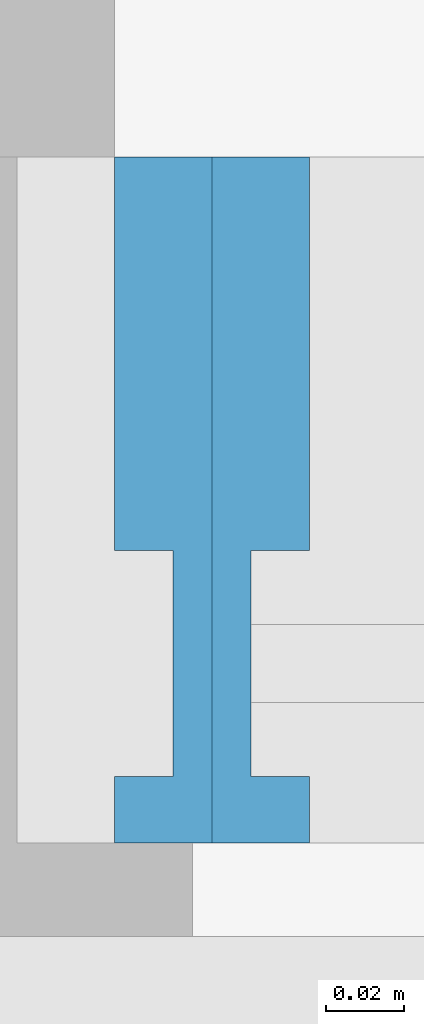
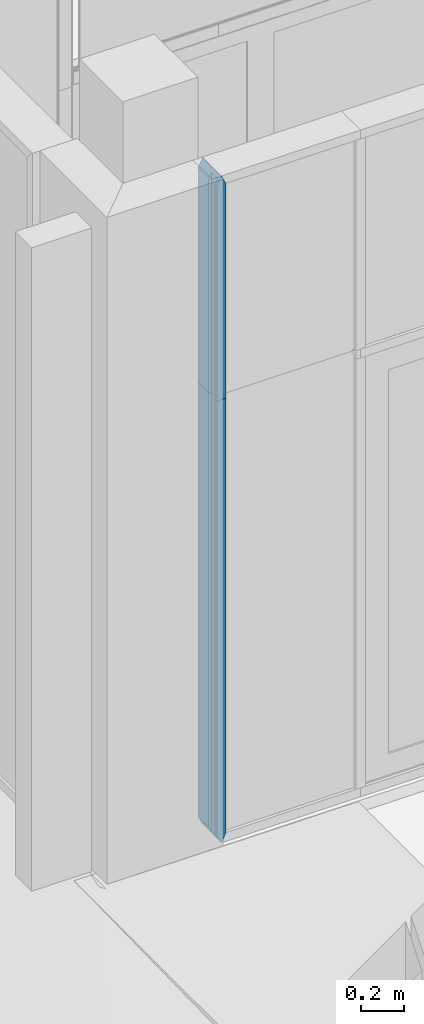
# One storey, part 13 of 69: 2 members, 1 element without a shape of its own.
"""IFC2X3 building model written with IfcOpenShell, lengths in millimetres."""

import ifcopenshell
import ifcopenshell.guid

model = None  # the IFC model being written
_history = None  # IfcOwnerHistory: only IFC2X3 demands one
_inside = {}  # id of a spatial element -> (the spatial element, [elements in it])
_under = {}  # id of a project, library or spatial element -> (it, [spatial elements below it])
_declared = {}  # id of a project -> (the project, [libraries it declares])
_typed = {}  # id of a type object -> (the type object, [elements of that type])
_made_of = {}  # id of a material, layer set ... -> (it, [elements and type objects made of it])


def new_model(schema):
    """Start an empty IFC model of exactly this schema.

    Asked for "IFC4X3", IfcOpenShell would pick the latest addendum, in which some entities
    have other attributes; the version numbers below select the first issue.
    IFC2X3 requires an IfcOwnerHistory on every rooted entity: one is made here for all.
    """
    global model, _history
    if schema == "IFC4X3":
        model = ifcopenshell.file(schema_version=(4, 3, 0, 0))
    else:
        model = ifcopenshell.file(schema=schema)
    _inside.clear()
    _under.clear()
    _declared.clear()
    _typed.clear()
    _made_of.clear()
    _history = None
    if model.schema == "IFC2X3":
        org = make("IfcOrganization", Name="unknown")
        user = make(
            "IfcPersonAndOrganization",
            ThePerson=make("IfcPerson", FamilyName="unknown"),
            TheOrganization=org,
        )
        app = make(
            "IfcApplication",
            ApplicationDeveloper=org,
            Version="unknown",
            ApplicationFullName="unknown",
            ApplicationIdentifier="unknown",
        )
        _history = make(
            "IfcOwnerHistory",
            OwningUser=user,
            OwningApplication=app,
            ChangeAction="ADDED",
            CreationDate=0,
        )
    return model


def make(cls, **values):
    """One entity of the class cls with the attributes given. An attribute that is None is left unset."""
    return model.create_entity(
        cls, **{name: value for name, value in values.items() if value is not None}
    )


def entity(cls, *values):
    """Any entity or typed value of the class cls, its attributes in the order of the schema. None: left unset."""
    e = model.create_entity(cls)
    for i, value in enumerate(values):
        if value is not None:
            e[i] = value
    return e


def rooted(cls, **values):
    """An entity with a GlobalId (a new one), such as an element, a storey or a relation."""
    return make(cls, GlobalId=ifcopenshell.guid.new(), OwnerHistory=_history, **values)


def si_unit(unit_type, name, prefix=None):
    """IfcSIUnit, for example si_unit("LENGTHUNIT", "METRE", prefix="MILLI")."""
    return make("IfcSIUnit", UnitType=unit_type, Prefix=prefix, Name=name)


def converted_unit(unit_type, name, factor, base, dimensions=None, offset=None):
    """IfcConversionBasedUnit, such as the inch: factor (a typed value) times the base unit."""
    return make(
        "IfcConversionBasedUnit"
        if offset is None
        else "IfcConversionBasedUnitWithOffset",
        ConversionOffset=offset,
        Dimensions=None
        if dimensions is None
        else entity("IfcDimensionalExponents", *dimensions),
        UnitType=unit_type,
        Name=name,
        ConversionFactor=make(
            "IfcMeasureWithUnit", ValueComponent=factor, UnitComponent=base
        ),
    )


def derived_unit(unit_type, elements):
    """IfcDerivedUnit: a product of units, each with its exponent."""
    return make(
        "IfcDerivedUnit",
        Elements=[
            make("IfcDerivedUnitElement", Unit=unit, Exponent=power)
            for unit, power in elements
        ],
        UnitType=unit_type,
    )


def money_unit(currency):
    """IfcMonetaryUnit."""
    return make("IfcMonetaryUnit", Currency=currency)


def assignment(units):
    """IfcUnitAssignment: the units of a project."""
    return None if units is None else make("IfcUnitAssignment", Units=units)


def point(xyz):
    """IfcCartesianPoint."""
    return None if xyz is None else make("IfcCartesianPoint", Coordinates=xyz)


def direction(xyz):
    """IfcDirection."""
    return None if xyz is None else make("IfcDirection", DirectionRatios=xyz)


def frame(location, z_axis=None, x_axis=None):
    """IfcAxis2Placement3D, a coordinate frame: its origin and axes. An axis left out is left unset."""
    return make(
        "IfcAxis2Placement3D",
        Location=point(location),
        Axis=direction(z_axis),
        RefDirection=direction(x_axis),
    )


def origin_with_axes():
    """The frame at (0, 0, 0) with the z axis (0, 0, 1) and the x axis (1, 0, 0) written out."""
    return frame((0.0, 0.0, 0.0), z_axis=(0.0, 0.0, 1.0), x_axis=(1.0, 0.0, 0.0))


def place(relative_to, where):
    """IfcLocalPlacement: puts the frame where relative to a parent placement (None: the world)."""
    return make(
        "IfcLocalPlacement", PlacementRelTo=relative_to, RelativePlacement=where
    )


def context(
    kind, dimensions, precision=None, world=None, true_north=None, identifier=None
):
    """IfcGeometricRepresentationContext, for example the 3D "Model" context."""
    return make(
        "IfcGeometricRepresentationContext",
        ContextIdentifier=identifier,
        ContextType=kind,
        CoordinateSpaceDimension=dimensions,
        Precision=precision,
        WorldCoordinateSystem=world,
        TrueNorth=true_north,
    )


def subcontext(parent, identifier, kind, view, scale=None):
    """IfcGeometricRepresentationSubContext, for example "Body" below "Model"."""
    return make(
        "IfcGeometricRepresentationSubContext",
        ContextIdentifier=identifier,
        ContextType=kind,
        ParentContext=parent,
        TargetScale=scale,
        TargetView=view,
    )


def project(units=None, contexts=None):
    """IfcProject with its units and contexts."""
    return rooted(
        "IfcProject",
        Name="project",
        RepresentationContexts=contexts,
        UnitsInContext=assignment(units),
    )


def spatial(cls, under=None, at=None, **own):
    """A site, building, storey or space (cls), placed at a placement, below another one or the project."""
    s = rooted(cls, ObjectPlacement=at, **own)
    if under is not None:
        _under.setdefault(under.id(), (under, []))[1].append(s)
    return s


def faces_of(points, faces, orient=None, outer=None):
    """IfcFace entities. A face is a list of loops; a loop is a list of indices into points, from 0.

    orient and outer hold one flag for each loop. By default every Orientation is true, the
    first loop of a face is its IfcFaceOuterBound and the others are IfcFaceBound.
    """
    made = []
    for i, loops in enumerate(faces):
        bounds = []
        for j, loop in enumerate(loops):
            is_outer = j == 0 if outer is None else outer[i][j]
            bounds.append(
                make(
                    "IfcFaceOuterBound" if is_outer else "IfcFaceBound",
                    Bound=make("IfcPolyLoop", Polygon=[points[k] for k in loop]),
                    Orientation=True if orient is None else orient[i][j],
                )
            )
        made.append(make("IfcFace", Bounds=bounds))
    return made


def faceted_brep(points, faces, orient=None, outer=None, voids=None):
    """IfcFacetedBrep: a solid bounded by flat faces; with voids (closed shells), ...WithVoids."""
    shared = [point(p) for p in points]
    hull = make("IfcClosedShell", CfsFaces=faces_of(shared, faces, orient, outer))
    if voids is None:
        return make("IfcFacetedBrep", Outer=hull)
    return make(
        "IfcFacetedBrepWithVoids",
        Outer=hull,
        Voids=[
            make(cls, CfsFaces=faces_of(shared, fs, o, b)) for cls, fs, o, b in voids
        ],
    )


def shape(context_of_items, identifier, shape_type, items):
    """IfcShapeRepresentation: the items that make up one representation, for example the "Body"."""
    return make(
        "IfcShapeRepresentation",
        ContextOfItems=context_of_items,
        RepresentationIdentifier=identifier,
        RepresentationType=shape_type,
        Items=items,
    )


def material(Name=None, Category=None):
    """IfcMaterial."""
    return make("IfcMaterial", Name=Name, Category=Category)


def made_of(thing, what):
    """Note that an element or type object is made of a material, layer set ...; save() writes the relation."""
    if what is not None:
        _made_of.setdefault(what.id(), (what, []))[1].append(thing)
    return thing


def type_object(cls, material=None, **own):
    """A type object (cls), such as IfcWallType, which elements share."""
    return made_of(rooted(cls, **own), material)


def element(
    cls,
    number,
    at=None,
    inside=None,
    cuts=None,
    type_object=None,
    material=None,
    context=None,
    identifier="Body",
    shape_type=None,
    held_by="IfcProductDefinitionShape",
    body=None,
    shapes=None,
    **own,
):
    """One element of the class cls, such as IfcWall. Its Tag is "e" and its number.

    at: its placement. inside: the storey or other place that contains it. cuts: it is an
    opening in that element (IfcRelVoidsElement). A single representation is given by context,
    identifier, shape_type and body (its items); several are given by shapes. held_by: the class
    of the entity that holds the representations. save() writes the other relations.
    """
    e = rooted(cls, Tag="e%d" % number, ObjectPlacement=at, **own)
    if body is not None:
        shapes = [shape(context, identifier, shape_type, body)]
    if shapes is not None:
        e.Representation = make(held_by, Representations=shapes)
    if inside is not None:
        _inside.setdefault(inside.id(), (inside, []))[1].append(e)
    if cuts is not None:
        rooted(
            "IfcRelVoidsElement", RelatingBuildingElement=cuts, RelatedOpeningElement=e
        )
    if type_object is not None:
        _typed.setdefault(type_object.id(), (type_object, []))[1].append(e)
    return made_of(e, material)


def aggregate(whole, parts):
    """IfcRelAggregates: a whole, such as a stair, and the parts it consists of."""
    return rooted("IfcRelAggregates", RelatingObject=whole, RelatedObjects=parts)


def save(model, path):
    """Write the relations noted so far, then the file.

    IfcRelAggregates (storeys below a building ...), IfcRelContainedInSpatialStructure (elements
    in a storey), IfcRelDefinesByType, IfcRelAssociatesMaterial and IfcRelDeclares: one each for
    every whole, place, type object, material and project.
    """
    for whole, parts in _under.values():
        aggregate(whole, parts)
    for where, things in _inside.values():
        rooted(
            "IfcRelContainedInSpatialStructure",
            RelatedElements=things,
            RelatingStructure=where,
        )
    for kind, things in _typed.values():
        rooted("IfcRelDefinesByType", RelatedObjects=things, RelatingType=kind)
    for what, things in _made_of.values():
        rooted("IfcRelAssociatesMaterial", RelatedObjects=things, RelatingMaterial=what)
    for by, libraries in _declared.values():
        rooted("IfcRelDeclares", RelatingContext=by, RelatedDefinitions=libraries)
    model.write(path)


model = new_model("IFC2X3")

# Units and contexts
model_context = context("Model", 3, precision=0.01, world=origin_with_axes(), true_north=direction((0.0, 1.0)))
body_context = subcontext(model_context, "Body", "Model", "MODEL_VIEW")
ifc_project = project(units=[si_unit("LENGTHUNIT", "METRE", prefix="MILLI"), si_unit("AREAUNIT", "SQUARE_METRE"), si_unit("VOLUMEUNIT", "CUBIC_METRE"), converted_unit("PLANEANGLEUNIT", "DEGREE", entity("IfcPlaneAngleMeasure", 0.0174532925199), si_unit("PLANEANGLEUNIT", "RADIAN"), dimensions=[0, 0, 0, 0, 0, 0, 0]), si_unit("SOLIDANGLEUNIT", "STERADIAN"), money_unit("EUR"), converted_unit("TIMEUNIT", "Year", entity("IfcTimeMeasure", 31556926.0), si_unit("TIMEUNIT", "SECOND"), dimensions=[0, 0, 1, 0, 0, 0, 0]), si_unit("MASSUNIT", "GRAM", prefix="KILO"), si_unit("THERMODYNAMICTEMPERATUREUNIT", "DEGREE_CELSIUS"), si_unit("LUMINOUSINTENSITYUNIT", "LUMEN"), si_unit("ENERGYUNIT", "JOULE", prefix="MEGA"), derived_unit("THERMALCONDUCTANCEUNIT", [(si_unit("POWERUNIT", "WATT"), 1), (si_unit("LENGTHUNIT", "METRE"), -1), (si_unit("THERMODYNAMICTEMPERATUREUNIT", "KELVIN"), -1)]), derived_unit("SPECIFICHEATCAPACITYUNIT", [(si_unit("ENERGYUNIT", "JOULE"), 1), (si_unit("MASSUNIT", "GRAM", prefix="KILO"), -1), (si_unit("THERMODYNAMICTEMPERATUREUNIT", "KELVIN"), -1)]), derived_unit("MASSDENSITYUNIT", [(si_unit("MASSUNIT", "GRAM", prefix="KILO"), 1), (si_unit("VOLUMEUNIT", "CUBIC_METRE"), -1)])], contexts=[model_context])

# Site, building, storey
site_placement = place(None, origin_with_axes())
site = spatial("IfcSite", under=ifc_project, at=site_placement, Name="Puškini 31, Narva", CompositionType="ELEMENT")
building_placement = place(site_placement, origin_with_axes())
building = spatial("IfcBuilding", under=site, at=building_placement, Name="Narva Riigigümnaasium", CompositionType="ELEMENT")
storey_placement = place(building_placement, origin_with_axes())
storey = spatial("IfcBuildingStorey", under=building, at=storey_placement, Name="1.korrus 0.00", CompositionType="ELEMENT", Elevation=0.0)

# Curtain wall, members
curtain_wall_type = type_object("IfcCurtainWallType", Name="Curtain Wall Type", PredefinedType="NOTDEFINED")
curtain_wall_placement = place(storey_placement, frame((18232.2449236, 149970.00001, 0.0), z_axis=(0.0, 0.0, 1.0), x_axis=(1.0, 0.0, 0.0)))
curtain_wall = element("IfcCurtainWall", 1, at=curtain_wall_placement, inside=storey, type_object=curtain_wall_type, Name="G-KLF-01a")
ifc_material = material(Name="ET-04_Alumiinium")
member_type = type_object("IfcMemberType", Name="Boundary Frame 50 x 176", PredefinedType="MULLION")
member_1_placement = place(curtain_wall_placement, frame((-1685.24494023, 0.0, 0.0), z_axis=(0.0, 0.0, 1.0), x_axis=(1.0, 0.0, 0.0)))
member_1 = element("IfcMember", 2, at=member_1_placement, type_object=member_type, material=ifc_material, Name="Klaasfassaadi raam", ObjectType="MULLION", context=body_context, shape_type="Brep", body=[
    faceted_brep([(-10.0, 29.0, 2499.99993165), (-10.0, -29.0, 2499.99993165), (-25.0, -29.0, 2499.99993165), (-25.0, -46.0, 2499.99993165), (25.0, -46.0, 2499.99993165), (25.0, -29.0, 2499.99993165), (10.0, -29.0, 2499.99993165), (10.0, 29.0, 2499.99993165), (25.0, 29.0, 2499.99993165), (25.0, 130.0, 2499.99993165), (-25.0, 130.0, 2499.99993165), (-25.0, 29.0, 2499.99993165), (-10.0, 29.0, 20.0), (-10.0, -29.0, 20.0), (-25.0, -29.0, 50.0), (-25.0, -46.0, 50.0), (25.0, -46.0, 50.0), (0.0, -46.0, 0.0), (25.0, -29.0, 50.0), (10.0, -29.0, 20.0), (10.0, 29.0, 20.0), (25.0, 29.0, 50.0), (25.0, 130.0, 50.0), (-25.0, 130.0, 50.0), (0.0, 130.0, 0.0), (-25.0, 29.0, 50.0)], [[[0, 1, 2, 3, 4, 5, 6, 7, 8, 9, 10, 11]], [[0, 12, 13, 1]], [[1, 13, 14, 2]], [[14, 15, 3, 2]], [[16, 4, 3, 15, 17]], [[18, 5, 4, 16]], [[5, 18, 19, 6]], [[7, 6, 19, 20]], [[8, 7, 20, 21]], [[8, 21, 22, 9]], [[23, 10, 9, 22, 24]], [[11, 10, 23, 25]], [[11, 25, 12, 0]], [[13, 12, 25, 23, 24, 17, 15, 14]], [[16, 17, 24, 22, 21, 20, 19, 18]]]),
])
member_2_placement = place(curtain_wall_placement, frame((-1685.24494023, 0.0, 2499.99993143), z_axis=(-8.66599866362e-09, 0.0, 1.0), x_axis=(1.0, 0.0, 8.66599866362e-09)))
member_2 = element("IfcMember", 3, at=member_2_placement, type_object=member_type, material=ifc_material, Name="Klaasfassaadi raam", ObjectType="MULLION", context=body_context, shape_type="Brep", body=[
    faceted_brep([(-9.99998925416, 29.0, 1240.00006874), (-9.99998925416, -29.0, 1240.00006874), (-24.9999895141, -29.0, 1210.000069), (-24.9999895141, -46.0, 1210.000069), (1.09191589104e-05, -46.0, 1260.00006857), (1.09191589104e-05, 130.0, 1260.00006857), (-24.9999895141, 130.0, 1210.000069), (-24.9999895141, 29.0, 1210.000069), (-10.0, 29.0, -1.29989796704e-07), (-10.0, -29.0, -1.29989796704e-07), (-25.0, -29.0, 0.0), (-25.0, -46.0, 0.0), (25.0, -46.0, -4.33299618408e-07), (25.0000104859, -46.0, 1210.00006814), (25.0000104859, -29.0, 1210.00006814), (10.0000107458, -29.0, 1240.0000684), (10.0000107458, 29.0, 1240.0000684), (25.0000104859, 29.0, 1210.00006814), (25.0000104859, 130.0, 1210.00006814), (25.0, 130.0, -4.33299618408e-07), (-25.0, 130.0, 0.0), (-25.0, 29.0, 0.0), (25.0, 29.0, -4.33299618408e-07), (10.0, 29.0, -3.03309821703e-07), (10.0, -29.0, -3.03309821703e-07), (25.0, -29.0, -4.33299618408e-07)], [[[0, 1, 2, 3, 4, 5, 6, 7]], [[0, 8, 9, 1]], [[1, 9, 10, 2]], [[10, 11, 3, 2]], [[11, 12, 13, 4, 3]], [[5, 4, 13, 14, 15, 16, 17, 18]], [[18, 19, 20, 6, 5]], [[7, 6, 20, 21]], [[7, 21, 8, 0]], [[9, 8, 21, 20, 19, 22, 23, 24, 25, 12, 11, 10]], [[25, 14, 13, 12]], [[14, 25, 24, 15]], [[16, 15, 24, 23]], [[17, 16, 23, 22]], [[17, 22, 19, 18]]]),
])
aggregate(curtain_wall, [member_1, member_2])

save(model, "model.ifc")
